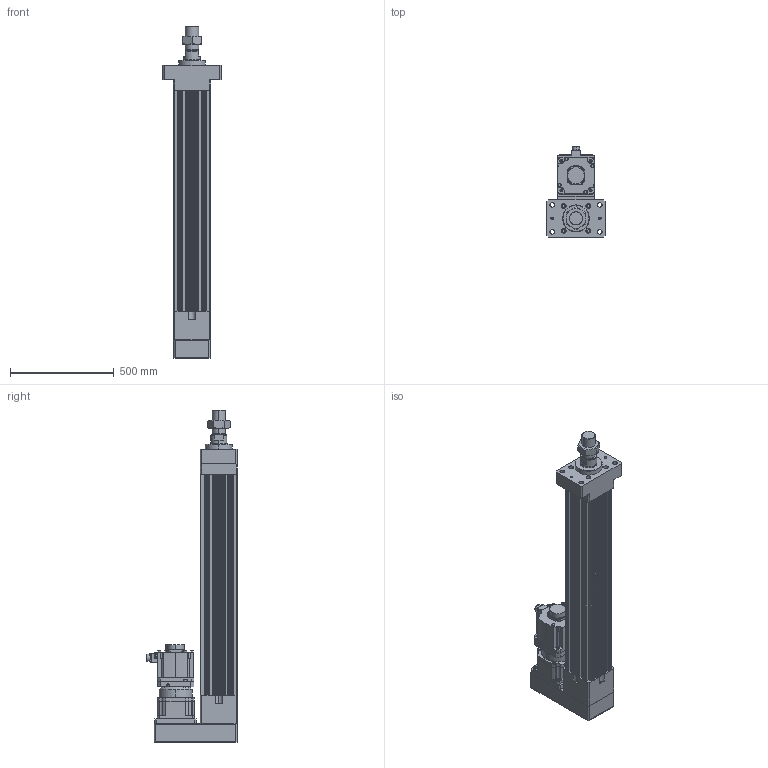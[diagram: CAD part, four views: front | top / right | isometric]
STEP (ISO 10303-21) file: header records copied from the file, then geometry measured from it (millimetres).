
FILE_DESCRIPTION (( 'STEP AP203' ), '1' );
FILE_NAME ('HES180HS-P750-W050G00-M-FMA.STEP', '2023-02-01T08:28:09', ( 'tms' ), ( '' ), 'SwSTEP 2.0', 'SolidWorks 2013', '' );
FILE_SCHEMA (( 'CONFIG_CONTROL_DESIGN' ));
Length unit declared in the file: millimetre
Products named in the file (9): HG-SR502; HES180 ROD M ST750; AB1801; P1301600001; HES180HS-P750-W050G00-M-FMA; M64X2.0P; HES180-P750-G180-FMA; AB180-003[HG-SR702B]; P0403600401
Assembly tree (8 placements, depth 3):
  HES180HS-P750-W050G00-M-FMA
    HES180-P750-G180-FMA
    HES180 ROD M ST750
    M64X2.0P
    AB180-003[HG-SR702B]
      AB1801
      P1301600001
      P0403600401
    HG-SR502
Bounding box: 280 x 438.85 x 1602 mm (x, y, z)
Volume: 34095809.1 mm3; surface area: 3033301.9 mm2
Topology: 4 solids, 19 shells, 1431 faces, 3715 edges, 2410 vertices
Faces by surface type: cylinder 663, plane 555, cone 146, bspline 63, torus 4
Entity records: 52578 total; most frequent: CARTESIAN_POINT 15982, DIRECTION 7693, ORIENTED_EDGE 7330, EDGE_CURVE 3689, AXIS2_PLACEMENT_3D 2901, VERTEX_POINT 2410, LINE 1891, VECTOR 1891
